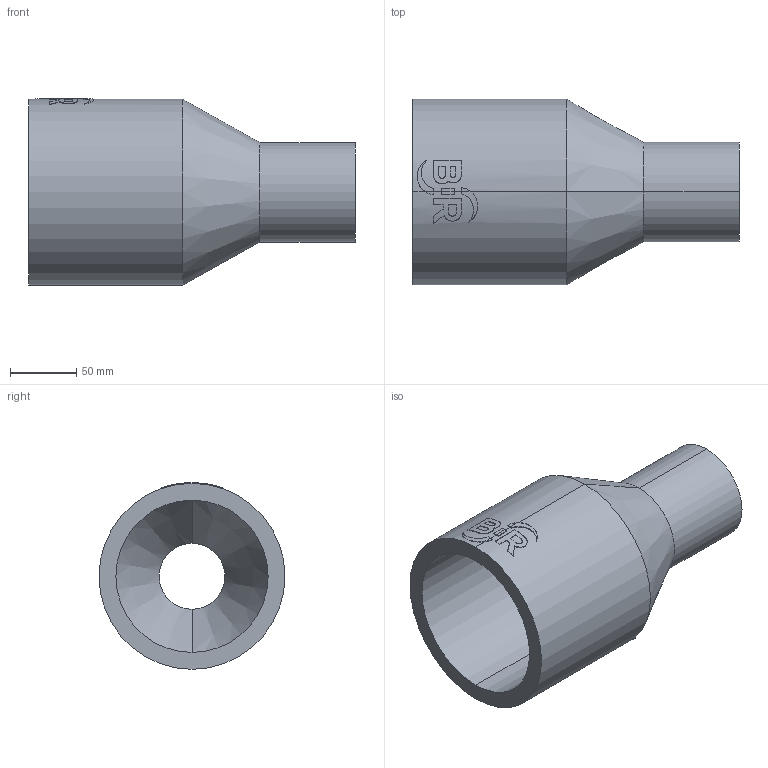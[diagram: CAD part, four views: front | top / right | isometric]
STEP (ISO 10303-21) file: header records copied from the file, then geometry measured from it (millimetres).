
FILE_DESCRIPTION (( 'STEP AP214' ), '1' );
FILE_NAME ('2323161215.STEP', '2018-07-20T12:14:18', ( '' ), ( '' ), 'SwSTEP 2.0', 'SolidWorks 2017', '' );
FILE_SCHEMA (( 'AUTOMOTIVE_DESIGN' ));
Length unit declared in the file: millimetre
Products named in the file (1): 2323161215
Bounding box: 246 x 140 x 140.46 mm (x, y, z)
Volume: 1015665.6 mm3; surface area: 167645.9 mm2
Topology: 1 solids, 1 shells, 63 faces, 160 edges, 104 vertices
Faces by surface type: cylinder 31, plane 28, cone 4
Entity records: 3229 total; most frequent: CARTESIAN_POINT 1020, ORIENTED_EDGE 320, DIRECTION 296, EDGE_CURVE 160, AXIS2_PLACEMENT_3D 112, VERTEX_POINT 104, VECTOR 72, LINE 72
